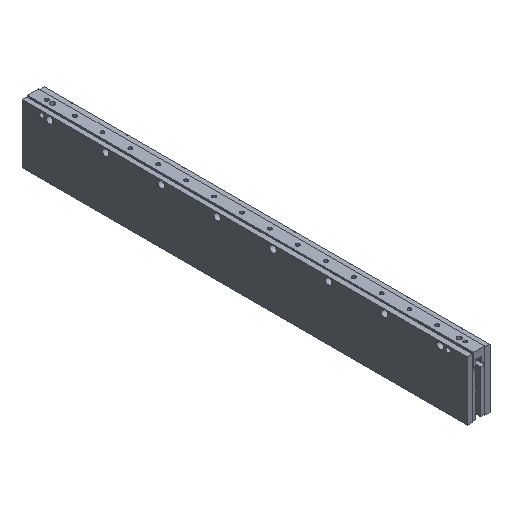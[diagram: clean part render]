
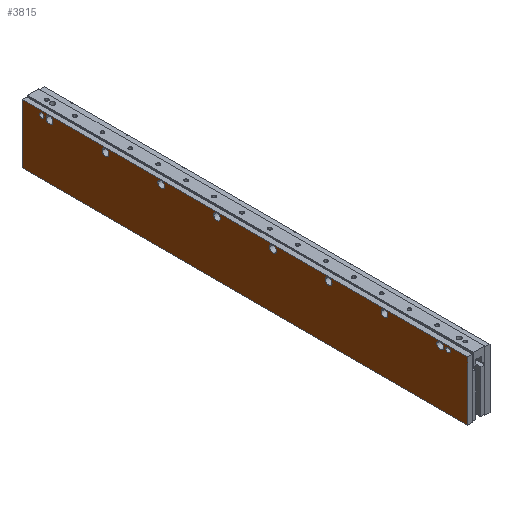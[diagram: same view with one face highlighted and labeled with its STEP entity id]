
A CAD part, isometric view. The second image highlights one B-rep face of the part: STEP entity #3815.
In plain terms, the highlighted planar face has unit normal (-1, 0, 0).
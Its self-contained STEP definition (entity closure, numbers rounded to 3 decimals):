
#825=DIRECTION('',(0.,0.,1.));
#826=VECTOR('',#825,67.77);
#827=CARTESIAN_POINT('',(-12.7,255.65,-69.));
#828=LINE('',#827,#826);
#849=CARTESIAN_POINT('',(-12.7,-224.,-5.69));
#850=DIRECTION('',(-1.,0.,0.));
#851=DIRECTION('',(0.,1.,0.));
#852=AXIS2_PLACEMENT_3D('',#849,#850,#851);
#854=CARTESIAN_POINT('',(-12.7,-224.,-5.69));
#855=DIRECTION('',(-1.,0.,0.));
#856=DIRECTION('',(0.,-1.,0.));
#857=AXIS2_PLACEMENT_3D('',#854,#855,#856);
#859=CARTESIAN_POINT('',(-12.7,-160.,-5.69));
#860=DIRECTION('',(-1.,0.,0.));
#861=DIRECTION('',(0.,1.,0.));
#862=AXIS2_PLACEMENT_3D('',#859,#860,#861);
#864=CARTESIAN_POINT('',(-12.7,-160.,-5.69));
#865=DIRECTION('',(-1.,0.,0.));
#866=DIRECTION('',(0.,-1.,0.));
#867=AXIS2_PLACEMENT_3D('',#864,#865,#866);
#869=CARTESIAN_POINT('',(-12.7,-96.,-5.69));
#870=DIRECTION('',(-1.,0.,0.));
#871=DIRECTION('',(0.,1.,0.));
#872=AXIS2_PLACEMENT_3D('',#869,#870,#871);
#874=CARTESIAN_POINT('',(-12.7,-96.,-5.69));
#875=DIRECTION('',(-1.,0.,0.));
#876=DIRECTION('',(0.,-1.,0.));
#877=AXIS2_PLACEMENT_3D('',#874,#875,#876);
#879=CARTESIAN_POINT('',(-12.7,-32.,-5.69));
#880=DIRECTION('',(-1.,0.,0.));
#881=DIRECTION('',(0.,1.,0.));
#882=AXIS2_PLACEMENT_3D('',#879,#880,#881);
#884=CARTESIAN_POINT('',(-12.7,-32.,-5.69));
#885=DIRECTION('',(-1.,0.,0.));
#886=DIRECTION('',(0.,-1.,0.));
#887=AXIS2_PLACEMENT_3D('',#884,#885,#886);
#889=CARTESIAN_POINT('',(-12.7,32.,-5.69));
#890=DIRECTION('',(-1.,0.,0.));
#891=DIRECTION('',(0.,1.,0.));
#892=AXIS2_PLACEMENT_3D('',#889,#890,#891);
#894=CARTESIAN_POINT('',(-12.7,32.,-5.69));
#895=DIRECTION('',(-1.,0.,0.));
#896=DIRECTION('',(0.,-1.,0.));
#897=AXIS2_PLACEMENT_3D('',#894,#895,#896);
#899=CARTESIAN_POINT('',(-12.7,96.,-5.69));
#900=DIRECTION('',(-1.,0.,0.));
#901=DIRECTION('',(0.,1.,0.));
#902=AXIS2_PLACEMENT_3D('',#899,#900,#901);
#904=CARTESIAN_POINT('',(-12.7,96.,-5.69));
#905=DIRECTION('',(-1.,0.,0.));
#906=DIRECTION('',(0.,-1.,0.));
#907=AXIS2_PLACEMENT_3D('',#904,#905,#906);
#909=CARTESIAN_POINT('',(-12.7,160.,-5.69));
#910=DIRECTION('',(-1.,0.,0.));
#911=DIRECTION('',(0.,1.,0.));
#912=AXIS2_PLACEMENT_3D('',#909,#910,#911);
#914=CARTESIAN_POINT('',(-12.7,160.,-5.69));
#915=DIRECTION('',(-1.,0.,0.));
#916=DIRECTION('',(0.,-1.,0.));
#917=AXIS2_PLACEMENT_3D('',#914,#915,#916);
#919=CARTESIAN_POINT('',(-12.7,224.,-5.69));
#920=DIRECTION('',(-1.,0.,0.));
#921=DIRECTION('',(0.,1.,0.));
#922=AXIS2_PLACEMENT_3D('',#919,#920,#921);
#924=CARTESIAN_POINT('',(-12.7,224.,-5.69));
#925=DIRECTION('',(-1.,0.,0.));
#926=DIRECTION('',(0.,-1.,0.));
#927=AXIS2_PLACEMENT_3D('',#924,#925,#926);
#929=CARTESIAN_POINT('',(-12.7,-233.,-5.69));
#930=DIRECTION('',(1.,0.,0.));
#931=DIRECTION('',(0.,1.,0.));
#932=AXIS2_PLACEMENT_3D('',#929,#930,#931);
#934=CARTESIAN_POINT('',(-12.7,-233.,-5.69));
#935=DIRECTION('',(1.,0.,0.));
#936=DIRECTION('',(0.,-1.,0.));
#937=AXIS2_PLACEMENT_3D('',#934,#935,#936);
#939=CARTESIAN_POINT('',(-12.7,233.,-5.69));
#940=DIRECTION('',(1.,0.,0.));
#941=DIRECTION('',(0.,1.,0.));
#942=AXIS2_PLACEMENT_3D('',#939,#940,#941);
#944=CARTESIAN_POINT('',(-12.7,233.,-5.69));
#945=DIRECTION('',(1.,0.,0.));
#946=DIRECTION('',(0.,-1.,0.));
#947=AXIS2_PLACEMENT_3D('',#944,#945,#946);
#949=DIRECTION('',(0.,1.,0.));
#950=VECTOR('',#949,511.3);
#951=CARTESIAN_POINT('',(-12.7,-255.65,-1.23));
#952=LINE('',#951,#950);
#953=DIRECTION('',(0.,1.,0.));
#954=VECTOR('',#953,511.3);
#955=CARTESIAN_POINT('',(-12.7,-255.65,-69.));
#956=LINE('',#955,#954);
#1625=DIRECTION('',(0.,0.,1.));
#1626=VECTOR('',#1625,67.77);
#1627=CARTESIAN_POINT('',(-12.7,-255.65,-69.));
#1628=LINE('',#1627,#1626);
#1869=CARTESIAN_POINT('',(-12.7,-255.65,-69.));
#1870=CARTESIAN_POINT('',(-12.7,255.65,-69.));
#1871=VERTEX_POINT('',#1869);
#1872=VERTEX_POINT('',#1870);
#1881=CARTESIAN_POINT('',(-12.7,-230.418,-5.69));
#1882=CARTESIAN_POINT('',(-12.7,-235.583,-5.69));
#1883=VERTEX_POINT('',#1881);
#1884=VERTEX_POINT('',#1882);
#1893=CARTESIAN_POINT('',(-12.7,-220.1,-5.69));
#1894=CARTESIAN_POINT('',(-12.7,-227.9,-5.69));
#1895=VERTEX_POINT('',#1893);
#1896=VERTEX_POINT('',#1894);
#1905=CARTESIAN_POINT('',(-12.7,-255.65,-1.23));
#1906=CARTESIAN_POINT('',(-12.7,255.65,-1.23));
#1907=VERTEX_POINT('',#1905);
#1908=VERTEX_POINT('',#1906);
#1959=CARTESIAN_POINT('',(-12.7,235.583,-5.69));
#1960=CARTESIAN_POINT('',(-12.7,230.418,-5.69));
#1961=VERTEX_POINT('',#1959);
#1962=VERTEX_POINT('',#1960);
#1987=CARTESIAN_POINT('',(-12.7,-156.1,-5.69));
#1988=CARTESIAN_POINT('',(-12.7,-163.9,-5.69));
#1989=VERTEX_POINT('',#1987);
#1990=VERTEX_POINT('',#1988);
#1999=CARTESIAN_POINT('',(-12.7,-92.1,-5.69));
#2000=CARTESIAN_POINT('',(-12.7,-99.9,-5.69));
#2001=VERTEX_POINT('',#1999);
#2002=VERTEX_POINT('',#2000);
#2011=CARTESIAN_POINT('',(-12.7,-28.1,-5.69));
#2012=CARTESIAN_POINT('',(-12.7,-35.9,-5.69));
#2013=VERTEX_POINT('',#2011);
#2014=VERTEX_POINT('',#2012);
#2023=CARTESIAN_POINT('',(-12.7,35.9,-5.69));
#2024=CARTESIAN_POINT('',(-12.7,28.1,-5.69));
#2025=VERTEX_POINT('',#2023);
#2026=VERTEX_POINT('',#2024);
#2035=CARTESIAN_POINT('',(-12.7,99.9,-5.69));
#2036=CARTESIAN_POINT('',(-12.7,92.1,-5.69));
#2037=VERTEX_POINT('',#2035);
#2038=VERTEX_POINT('',#2036);
#2047=CARTESIAN_POINT('',(-12.7,163.9,-5.69));
#2048=CARTESIAN_POINT('',(-12.7,156.1,-5.69));
#2049=VERTEX_POINT('',#2047);
#2050=VERTEX_POINT('',#2048);
#2059=CARTESIAN_POINT('',(-12.7,227.9,-5.69));
#2060=CARTESIAN_POINT('',(-12.7,220.1,-5.69));
#2061=VERTEX_POINT('',#2059);
#2062=VERTEX_POINT('',#2060);
#3742=CARTESIAN_POINT('',(-12.7,-255.65,-69.));
#3743=DIRECTION('',(-1.,0.,0.));
#3744=DIRECTION('',(0.,0.,1.));
#3745=AXIS2_PLACEMENT_3D('',#3742,#3743,#3744);
#3746=PLANE('',#3745);
#3747=ORIENTED_EDGE('',*,*,#3733,.F.);
#3749=ORIENTED_EDGE('',*,*,#3748,.F.);
#3751=ORIENTED_EDGE('',*,*,#3750,.T.);
#3752=ORIENTED_EDGE('',*,*,#3705,.T.);
#3753=EDGE_LOOP('',(#3747,#3749,#3751,#3752));
#3754=FACE_OUTER_BOUND('',#3753,.F.);
#3756=ORIENTED_EDGE('',*,*,#3755,.T.);
#3758=ORIENTED_EDGE('',*,*,#3757,.T.);
#3759=EDGE_LOOP('',(#3756,#3758));
#3760=FACE_BOUND('',#3759,.F.);
#3762=ORIENTED_EDGE('',*,*,#3761,.T.);
#3764=ORIENTED_EDGE('',*,*,#3763,.T.);
#3765=EDGE_LOOP('',(#3762,#3764));
#3766=FACE_BOUND('',#3765,.F.);
#3768=ORIENTED_EDGE('',*,*,#3767,.T.);
#3770=ORIENTED_EDGE('',*,*,#3769,.T.);
#3771=EDGE_LOOP('',(#3768,#3770));
#3772=FACE_BOUND('',#3771,.F.);
#3774=ORIENTED_EDGE('',*,*,#3773,.T.);
#3776=ORIENTED_EDGE('',*,*,#3775,.T.);
#3777=EDGE_LOOP('',(#3774,#3776));
#3778=FACE_BOUND('',#3777,.F.);
#3780=ORIENTED_EDGE('',*,*,#3779,.T.);
#3782=ORIENTED_EDGE('',*,*,#3781,.T.);
#3783=EDGE_LOOP('',(#3780,#3782));
#3784=FACE_BOUND('',#3783,.F.);
#3786=ORIENTED_EDGE('',*,*,#3785,.T.);
#3788=ORIENTED_EDGE('',*,*,#3787,.T.);
#3789=EDGE_LOOP('',(#3786,#3788));
#3790=FACE_BOUND('',#3789,.F.);
#3792=ORIENTED_EDGE('',*,*,#3791,.T.);
#3794=ORIENTED_EDGE('',*,*,#3793,.T.);
#3795=EDGE_LOOP('',(#3792,#3794));
#3796=FACE_BOUND('',#3795,.F.);
#3798=ORIENTED_EDGE('',*,*,#3797,.T.);
#3800=ORIENTED_EDGE('',*,*,#3799,.T.);
#3801=EDGE_LOOP('',(#3798,#3800));
#3802=FACE_BOUND('',#3801,.F.);
#3804=ORIENTED_EDGE('',*,*,#3803,.F.);
#3806=ORIENTED_EDGE('',*,*,#3805,.F.);
#3807=EDGE_LOOP('',(#3804,#3806));
#3808=FACE_BOUND('',#3807,.F.);
#3810=ORIENTED_EDGE('',*,*,#3809,.F.);
#3812=ORIENTED_EDGE('',*,*,#3811,.F.);
#3813=EDGE_LOOP('',(#3810,#3812));
#3814=FACE_BOUND('',#3813,.F.);
#3815=ADVANCED_FACE('',(#3754,#3760,#3766,#3772,#3778,#3784,#3790,#3796,#3802,
#3808,#3814),#3746,.T.);
#853=CIRCLE('',#852,3.9);
#858=CIRCLE('',#857,3.9);
#863=CIRCLE('',#862,3.9);
#868=CIRCLE('',#867,3.9);
#873=CIRCLE('',#872,3.9);
#878=CIRCLE('',#877,3.9);
#883=CIRCLE('',#882,3.9);
#888=CIRCLE('',#887,3.9);
#893=CIRCLE('',#892,3.9);
#898=CIRCLE('',#897,3.9);
#903=CIRCLE('',#902,3.9);
#908=CIRCLE('',#907,3.9);
#913=CIRCLE('',#912,3.9);
#918=CIRCLE('',#917,3.9);
#923=CIRCLE('',#922,3.9);
#928=CIRCLE('',#927,3.9);
#933=CIRCLE('',#932,2.583);
#938=CIRCLE('',#937,2.583);
#943=CIRCLE('',#942,2.583);
#948=CIRCLE('',#947,2.583);
#3705=EDGE_CURVE('',#1872,#1908,#828,.T.);
#3733=EDGE_CURVE('',#1907,#1908,#952,.T.);
#3748=EDGE_CURVE('',#1871,#1907,#1628,.T.);
#3750=EDGE_CURVE('',#1871,#1872,#956,.T.);
#3755=EDGE_CURVE('',#1895,#1896,#853,.T.);
#3757=EDGE_CURVE('',#1896,#1895,#858,.T.);
#3761=EDGE_CURVE('',#1989,#1990,#863,.T.);
#3763=EDGE_CURVE('',#1990,#1989,#868,.T.);
#3767=EDGE_CURVE('',#2001,#2002,#873,.T.);
#3769=EDGE_CURVE('',#2002,#2001,#878,.T.);
#3773=EDGE_CURVE('',#2013,#2014,#883,.T.);
#3775=EDGE_CURVE('',#2014,#2013,#888,.T.);
#3779=EDGE_CURVE('',#2025,#2026,#893,.T.);
#3781=EDGE_CURVE('',#2026,#2025,#898,.T.);
#3785=EDGE_CURVE('',#2037,#2038,#903,.T.);
#3787=EDGE_CURVE('',#2038,#2037,#908,.T.);
#3791=EDGE_CURVE('',#2049,#2050,#913,.T.);
#3793=EDGE_CURVE('',#2050,#2049,#918,.T.);
#3797=EDGE_CURVE('',#2061,#2062,#923,.T.);
#3799=EDGE_CURVE('',#2062,#2061,#928,.T.);
#3803=EDGE_CURVE('',#1883,#1884,#933,.T.);
#3805=EDGE_CURVE('',#1884,#1883,#938,.T.);
#3809=EDGE_CURVE('',#1961,#1962,#943,.T.);
#3811=EDGE_CURVE('',#1962,#1961,#948,.T.);
